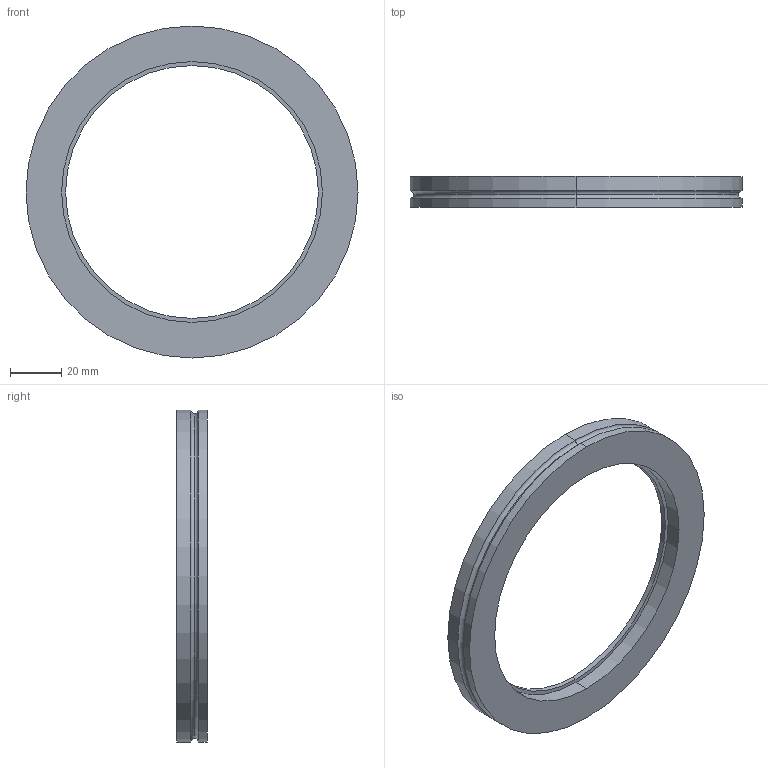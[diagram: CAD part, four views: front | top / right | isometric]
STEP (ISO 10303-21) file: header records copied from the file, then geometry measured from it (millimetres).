
FILE_DESCRIPTION (( 'STEP AP214' ), '1' );
FILE_NAME ('W4KL100.STEP', '2019-03-27T15:59:04', ( '' ), ( '' ), 'SwSTEP 2.0', 'SolidWorks 2018', '' );
FILE_SCHEMA (( 'AUTOMOTIVE_DESIGN' ));
Length unit declared in the file: millimetre
Products named in the file (1): W4KL100
Bounding box: 130 x 12 x 130 mm (x, y, z)
Volume: 49866.3 mm3; surface area: 20743.7 mm2
Topology: 1 solids, 1 shells, 21 faces, 42 edges, 26 vertices
Faces by surface type: cylinder 12, plane 5, torus 4
Entity records: 596 total; most frequent: DIRECTION 116, CARTESIAN_POINT 90, ORIENTED_EDGE 84, AXIS2_PLACEMENT_3D 52, EDGE_CURVE 42, CIRCLE 30, EDGE_LOOP 26, VERTEX_POINT 26
